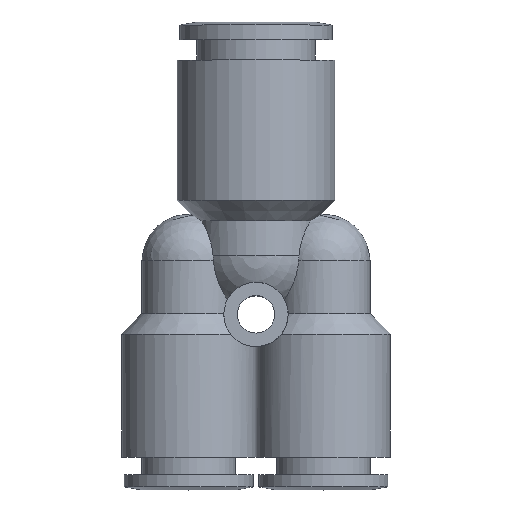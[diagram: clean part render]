
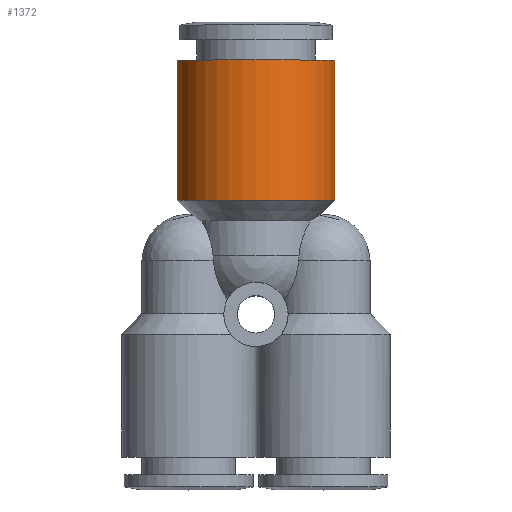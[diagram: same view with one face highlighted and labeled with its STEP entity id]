
A CAD part, top view. The second image highlights one B-rep face of the part: STEP entity #1372.
In plain terms, the highlighted cylindrical face has radius 6.75 mm (diameter 13.5 mm), a full revolution.
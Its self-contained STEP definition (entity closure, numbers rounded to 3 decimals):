
#1341=CARTESIAN_POINT('',(-6.75,9.75,0.0));
#1342=VERTEX_POINT('',#1341);
#1343=CARTESIAN_POINT('',(0.0,9.75,0.0));
#1344=DIRECTION('',(0.0,1.0,0.0));
#1345=DIRECTION('',(-1.0,0.0,0.0));
#1346=AXIS2_PLACEMENT_3D('',#1343,#1344,#1345);
#1347=CIRCLE('',#1346,6.75);
#1348=EDGE_CURVE('',#1342,#1342,#1347,.T.);
#1353=CARTESIAN_POINT('',(0.0,15.75,0.0));
#1354=DIRECTION('',(0.0,1.0,0.0));
#1355=DIRECTION('',(-1.0,0.0,0.0));
#1356=AXIS2_PLACEMENT_3D('',#1353,#1354,#1355);
#1357=CYLINDRICAL_SURFACE('',#1356,6.75);
#1358=CARTESIAN_POINT('',(-6.75,21.75,0.0));
#1359=VERTEX_POINT('',#1358);
#1360=CARTESIAN_POINT('',(0.0,21.75,0.0));
#1361=DIRECTION('',(0.0,1.0,0.0));
#1362=DIRECTION('',(-1.0,0.0,0.0));
#1363=AXIS2_PLACEMENT_3D('',#1360,#1361,#1362);
#1364=CIRCLE('',#1363,6.75);
#1365=EDGE_CURVE('',#1359,#1359,#1364,.T.);
#1366=ORIENTED_EDGE('',*,*,#1365,.F.);
#1367=EDGE_LOOP('',(#1366));
#1368=FACE_OUTER_BOUND('',#1367,.T.);
#1369=ORIENTED_EDGE('',*,*,#1348,.T.);
#1370=EDGE_LOOP('',(#1369));
#1371=FACE_BOUND('',#1370,.T.);
#1372=ADVANCED_FACE('',(#1368,#1371),#1357,.T.);
